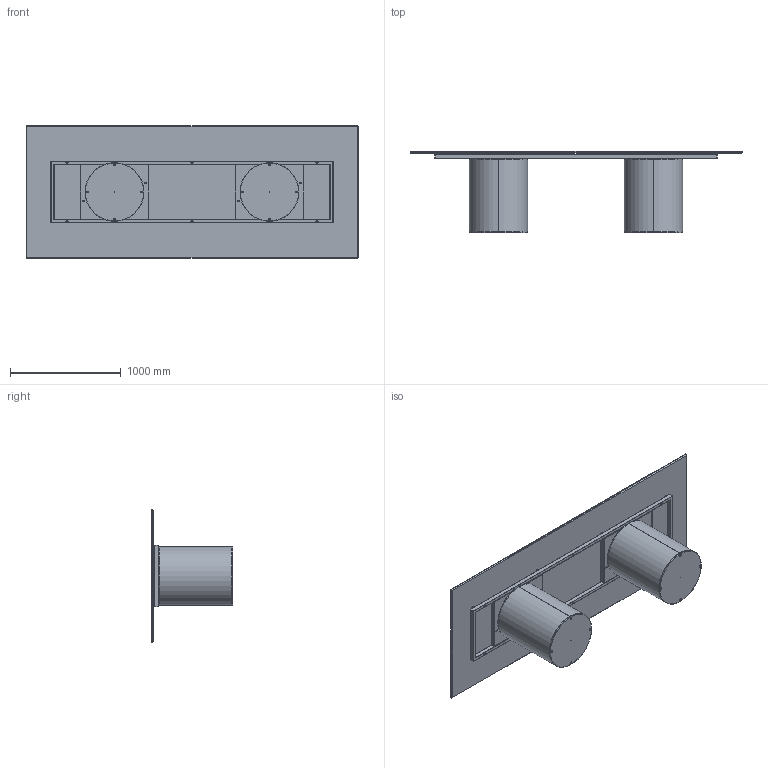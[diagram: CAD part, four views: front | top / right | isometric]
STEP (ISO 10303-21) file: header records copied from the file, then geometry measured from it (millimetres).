
FILE_DESCRIPTION (( 'STEP AP203' ), '1' );
FILE_NAME ('CI24C.STEP', '2024-08-08T07:09:15', ( '' ), ( '' ), 'SwSTEP 2.0', 'SolidWorks 2022', '' );
FILE_SCHEMA (( 'CONFIG_CONTROL_DESIGN' ));
Length unit declared in the file: millimetre
Products named in the file (11): TTAV03_02-06-VASSOIO IRRIGIDIMENTO TELAIO UNIVERSALE RETTANGOLARE; TTAV03-06-TELAIO UNIVERSALE X TAVOLI 300-340cm; C2B000000_01-00-struttura cilindro D.530mm; C2B000000-03-CILINDRO BASE D.530mm_Normale; 434070-00-PIEDINO TPV GOMMA NERO D. 30x8max18_filo estetico; M8xXXmm_hex_M8X20mm; CI24C; COLLO TELAIO UNIVERSALE TTAV03 CON FERRAMENTA_MTG TOP CRISTALLO VERNICIATO-CERAMICA; K2XCMXX-00-Piani Rettangolari in ceramica_3000 x 1200; C2B000000_02-01-ZAVORRA IN FERRO D.530mm; TTAV03_01-06-RING TUBO TELAIO UNIVERSALE X TAVOLI 300-340cm
Assembly tree (22 placements, depth 4):
  CI24C
    C2B000000-03-CILINDRO BASE D.530mm_Normale  x2
      C2B000000_01-00-struttura cilindro D.530mm
      C2B000000_02-01-ZAVORRA IN FERRO D.530mm
      M8xXXmm_hex_M8X20mm
    COLLO TELAIO UNIVERSALE TTAV03 CON FERRAMENTA_MTG TOP CRISTALLO VERNICIATO-CERAMICA
      TTAV03-06-TELAIO UNIVERSALE X TAVOLI 300-340cm
        TTAV03_01-06-RING TUBO TELAIO UNIVERSALE X TAVOLI 300-340cm
        TTAV03_02-06-VASSOIO IRRIGIDIMENTO TELAIO UNIVERSALE RETTANGOLARE  x2
      434070-00-PIEDINO TPV GOMMA NERO D. 30x8max18_filo estetico  x8
    K2XCMXX-00-Piani Rettangolari in ceramica_3000 x 1200
Bounding box: 3000 x 736 x 1200 mm (x, y, z)
Volume: 72006560 mm3; surface area: 23569587.1 mm2
Topology: 39 solids, 39 shells, 988 faces, 2240 edges, 1308 vertices
Faces by surface type: plane 456, cylinder 352, cone 96, torus 48, sphere 36
Entity records: 13979 total; most frequent: DIRECTION 2300, CARTESIAN_POINT 2139, ORIENTED_EDGE 2036, EDGE_CURVE 1018, AXIS2_PLACEMENT_3D 846, VERTEX_POINT 621, VECTOR 608, LINE 608
